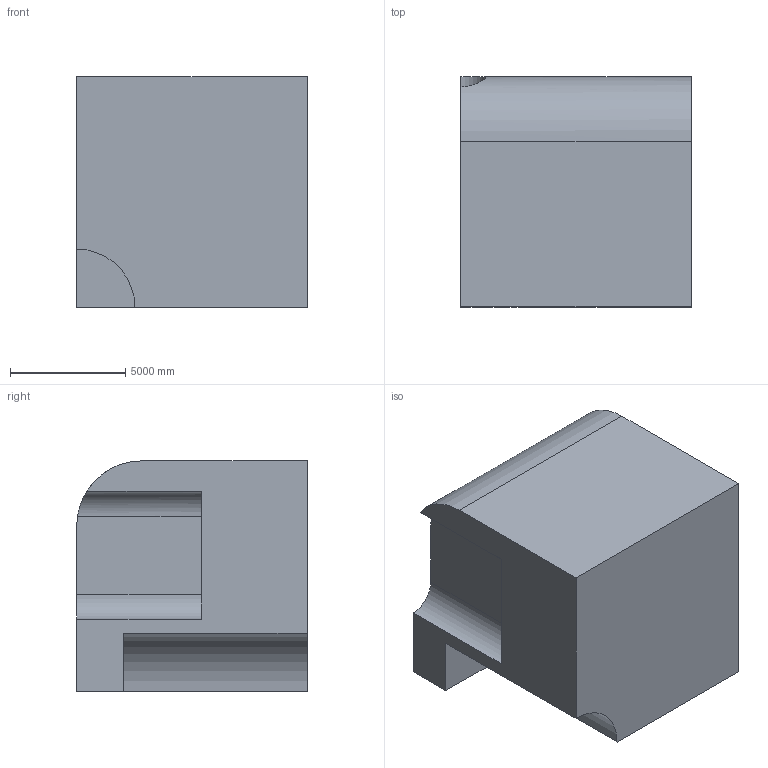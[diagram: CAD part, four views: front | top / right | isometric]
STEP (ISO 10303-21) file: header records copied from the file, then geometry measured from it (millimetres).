
FILE_DESCRIPTION (( 'STEP AP203' ), '1' );
FILE_NAME ('1381.STEP', '2022-08-18T14:09:01', ( 'user' ), ( '' ), 'SwSTEP 2.0', 'SolidWorks 2021', '' );
FILE_SCHEMA (( 'CONFIG_CONTROL_DESIGN' ));
Length unit declared in the file: centimetre
Products named in the file (1): 1381
Bounding box: 10000 x 10000 x 10000 mm (x, y, z)
Volume: 861793164259.9 mm3; surface area: 636556377.8 mm2
Topology: 1 solids, 1 shells, 16 faces, 39 edges, 26 vertices
Faces by surface type: plane 10, cylinder 6
Entity records: 611 total; most frequent: CARTESIAN_POINT 143, DIRECTION 84, ORIENTED_EDGE 78, EDGE_CURVE 39, AXIS2_PLACEMENT_3D 29, VERTEX_POINT 26, LINE 26, VECTOR 26
